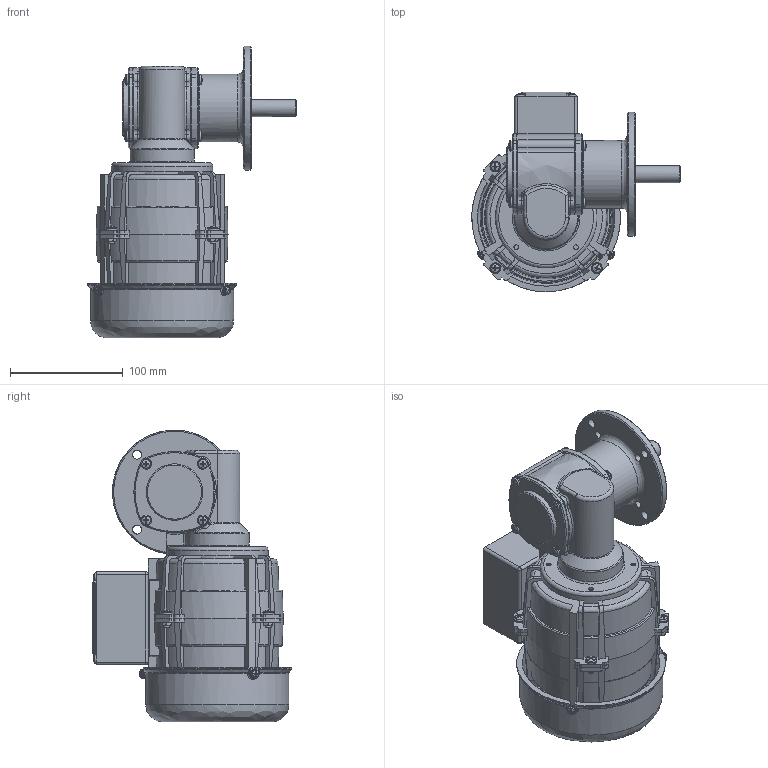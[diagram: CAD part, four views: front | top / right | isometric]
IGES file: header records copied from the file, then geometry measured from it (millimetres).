
Global section: file name: VXRSA15_Substitute_1; native system: Autodesk Inventor 2015; preprocessor: unknown; author: User; date: 20180108.162532; units: inch
Bounding box: 184.99 x 177.02 x 258.82 mm (x, y, z)
Volume: 1021853.7 mm3; surface area: 446899.1 mm2
Topology: 2 solids, 35 shells, 2855 faces, 8245 edges, 5446 vertices
Faces by surface type: bspline 2855
